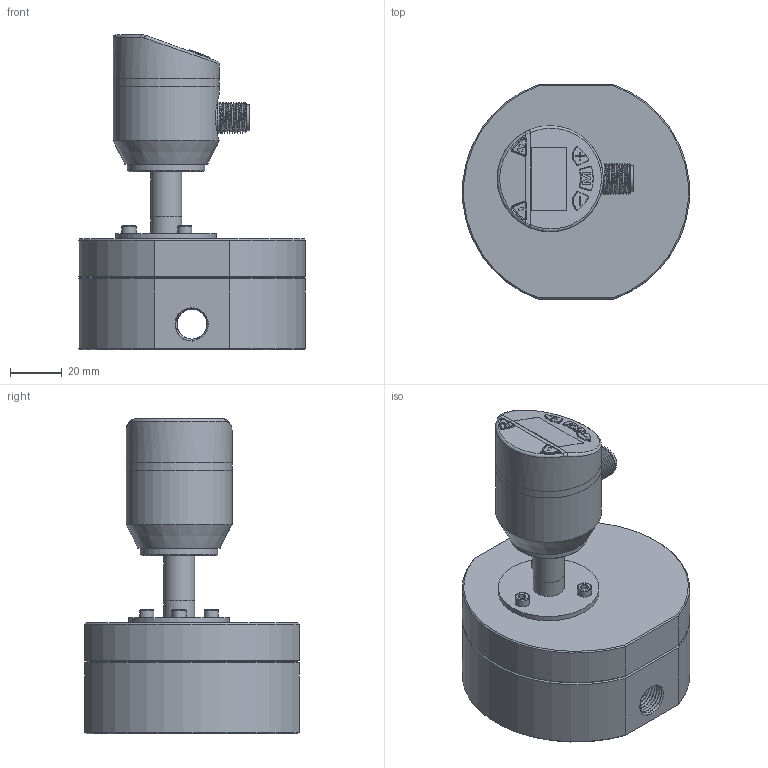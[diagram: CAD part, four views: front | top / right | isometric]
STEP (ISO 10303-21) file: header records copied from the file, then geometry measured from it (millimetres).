
FILE_DESCRIPTION( (''), '2;1');
FILE_NAME( 'QZKA_M2S_G1-4.step', '2024-02-26T11:00:17+08:00', (''), (''), '', '', '');
FILE_SCHEMA (('AUTOMOTIVE_DESIGN { 1 0 10303 214 3 1 1 1 }'));
Length unit declared in the file: millimetre
Products named in the file (1): QZKA M2S_G1-4
Bounding box: 87.7 x 83 x 122.2 mm (x, y, z)
Volume: 293161.6 mm3; surface area: 66275.4 mm2
Topology: 10 solids, 11 shells, 501 faces, 1149 edges, 709 vertices
Faces by surface type: plane 197, cylinder 157, cone 60, torus 43, bspline 38, sphere 6
Full cylindrical faces by diameter (mm): 1 x5, 2.7 x4, 2.874 x3, 5.5 x3, 8 x2, 8.4 x1, 9.7 x1, 9.8 x1, 10 x2, 10.1 x1, 11.6 x20, 12 x3, 16.5 x1, 23 x3, 26 x4, 26.1 x1, 30 x1, 37 x1, 39 x1, 41 x3
Entity records: 30341 total; most frequent: CARTESIAN_POINT 18728, DIRECTION 2092, ORIENTED_EDGE 1954, EDGE_CURVE 977, AXIS2_PLACEMENT_3D 839, VERTEX_POINT 632, EDGE_LOOP 598, ADVANCED_FACE 479
